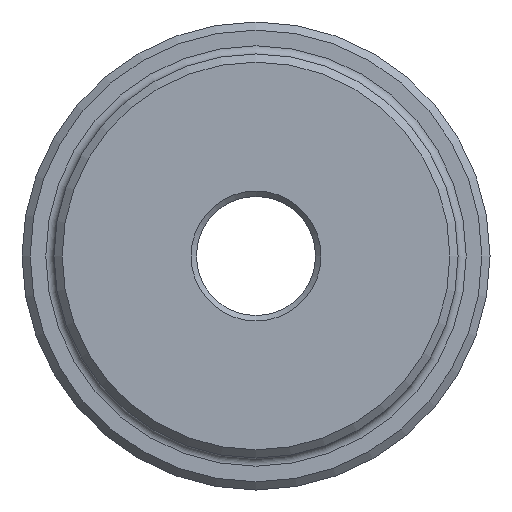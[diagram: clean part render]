
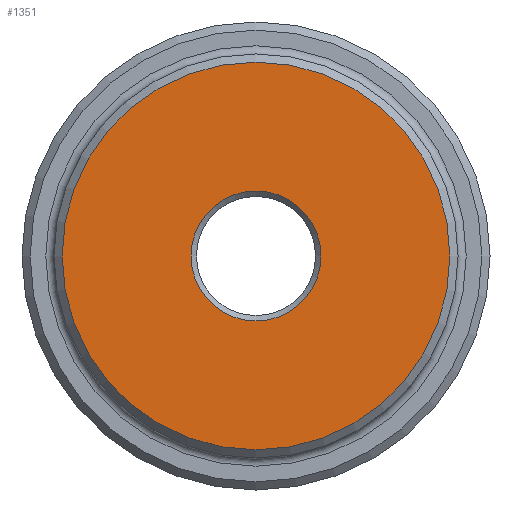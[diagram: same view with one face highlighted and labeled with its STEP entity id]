
A CAD part, left-side view. The second image highlights one B-rep face of the part: STEP entity #1351.
In plain terms, the highlighted planar face has unit normal (-1, 0, 0).
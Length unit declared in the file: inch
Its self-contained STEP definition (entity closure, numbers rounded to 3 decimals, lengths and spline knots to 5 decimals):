
#158 = EDGE_CURVE ( 'NONE', #283, #283, #1014, .T. ) ;
#159 = DIRECTION ( 'NONE',  ( 0., 0., -1. ) ) ;
#246 = EDGE_CURVE ( 'NONE', #532, #532, #1714, .T. ) ;
#283 = VERTEX_POINT ( 'NONE', #849 ) ;
#324 = FACE_BOUND ( 'NONE', #1087, .T. ) ;
#415 = DIRECTION ( 'NONE',  ( 1., 0., 0. ) ) ;
#489 = PLANE ( 'NONE',  #972 ) ;
#510 = CARTESIAN_POINT ( 'NONE',  ( 0., 0., 0. ) ) ;
#532 = VERTEX_POINT ( 'NONE', #1576 ) ;
#577 = DIRECTION ( 'NONE',  ( 1., 0., 0. ) ) ;
#768 = DIRECTION ( 'NONE',  ( -1., 0., 0. ) ) ;
#849 = CARTESIAN_POINT ( 'NONE',  ( 0., 0., -0.47765 ) ) ;
#972 = AXIS2_PLACEMENT_3D ( 'NONE', #1131, #415, #1510 ) ;
#990 = AXIS2_PLACEMENT_3D ( 'NONE', #510, #768, #1011 ) ;
#1011 = DIRECTION ( 'NONE',  ( 0., 0., -1. ) ) ;
#1014 = CIRCLE ( 'NONE', #1272, 0.47765 ) ;
#1087 = EDGE_LOOP ( 'NONE', ( #1712 ) ) ;
#1131 = CARTESIAN_POINT ( 'NONE',  ( 0., 0., 0. ) ) ;
#1227 = FACE_OUTER_BOUND ( 'NONE', #1317, .T. ) ;
#1272 = AXIS2_PLACEMENT_3D ( 'NONE', #1386, #577, #159 ) ;
#1317 = EDGE_LOOP ( 'NONE', ( #1570 ) ) ;
#1351 = ADVANCED_FACE ( 'NONE', ( #324, #1227 ), #489, .F. ) ;
#1386 = CARTESIAN_POINT ( 'NONE',  ( 0., 0., 0. ) ) ;
#1510 = DIRECTION ( 'NONE',  ( 0., 0., -1. ) ) ;
#1570 = ORIENTED_EDGE ( 'NONE', *, *, #246, .T. ) ;
#1576 = CARTESIAN_POINT ( 'NONE',  ( 0., 0., -1.425 ) ) ;
#1712 = ORIENTED_EDGE ( 'NONE', *, *, #158, .T. ) ;
#1714 = CIRCLE ( 'NONE', #990, 1.425 ) ;
